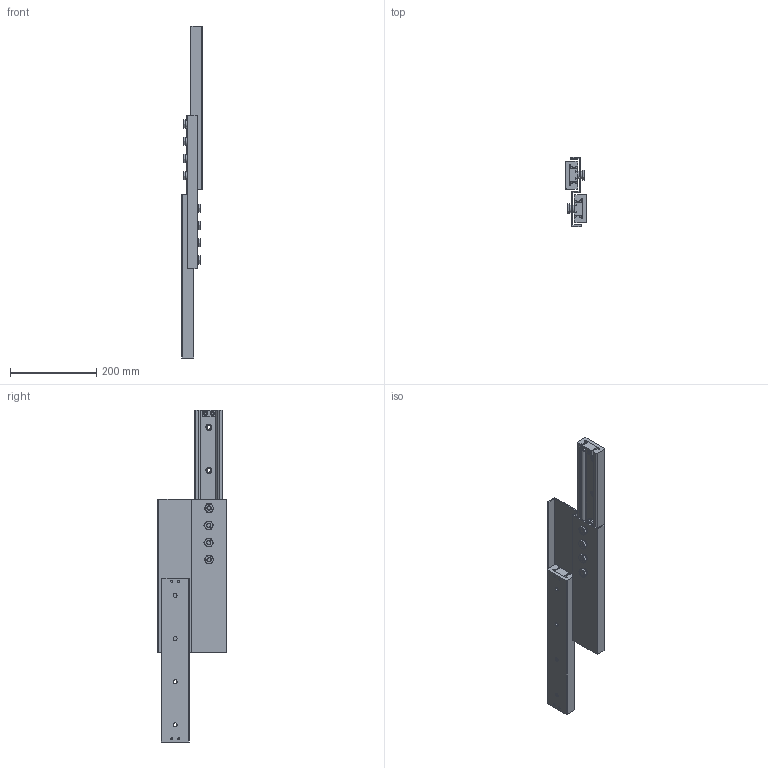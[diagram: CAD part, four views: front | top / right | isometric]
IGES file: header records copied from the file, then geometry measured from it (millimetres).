
Start section: SolidWorks IGES file using analytic representation for surfaces
Global section: file name: C:\Users\tsuch\OneDrive\デスクトップ\LSIMモジュール化図面\LSIM-DV(3D)\iges形式\LSIM65DV.IGS; native system: SolidWorks 2019; preprocessor: SolidWorks 2019; author: tsuch; date: 210614.084812; units: millimetre
Bounding box: 48 x 160 x 770 mm (x, y, z)
Surface area: 391902.3 mm2 (no closed solid volume)
Topology: 0 solids, 0 shells, 608 faces, 10248 edges, 10248 vertices
Faces by surface type: revolution 326, bspline 282
